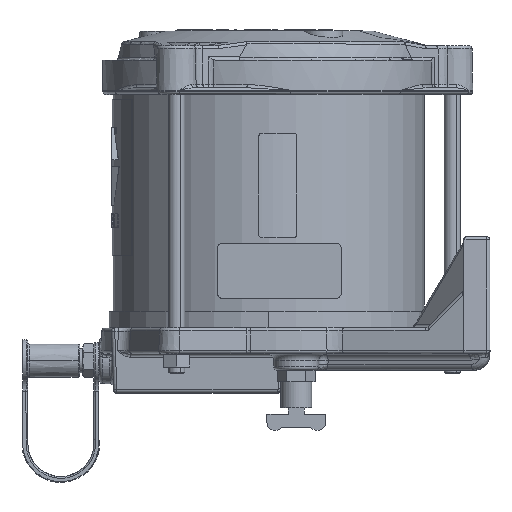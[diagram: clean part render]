
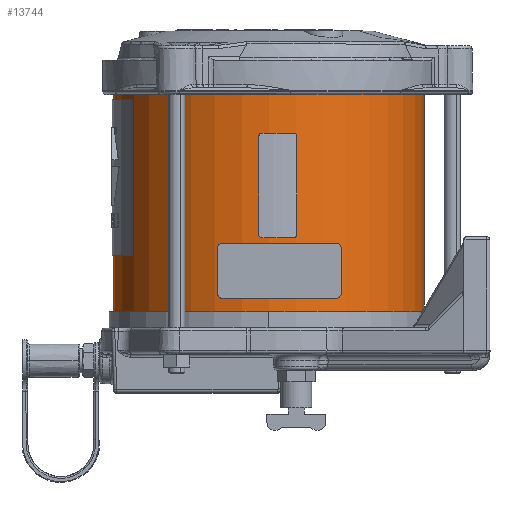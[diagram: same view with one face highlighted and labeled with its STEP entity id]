
A CAD part, top view. The second image highlights one B-rep face of the part: STEP entity #13744.
In plain terms, the highlighted cylindrical face has radius 75.819 mm (diameter 151.638 mm), a partial arc.
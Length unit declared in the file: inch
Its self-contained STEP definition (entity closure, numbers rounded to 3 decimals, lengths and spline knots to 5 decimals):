
#13693=CARTESIAN_POINT('',(-0.9535,1.575,-3.485));
#13694=DIRECTION('',(0.,-1.,0.));
#13695=DIRECTION('',(1.,0.,0.));
#13696=AXIS2_PLACEMENT_3D('',#13693,#13694,#13695);
#13698=DIRECTION('',(0.,1.,0.));
#13699=VECTOR('',#13698,4.89);
#13700=CARTESIAN_POINT('',(-3.9385,1.575,-3.485));
#13701=LINE('',#13700,#13699);
#13702=CARTESIAN_POINT('',(-0.9535,6.465,-3.485));
#13703=DIRECTION('',(0.,1.,0.));
#13704=DIRECTION('',(-1.,0.,0.));
#13705=AXIS2_PLACEMENT_3D('',#13702,#13703,#13704);
#13712=DIRECTION('',(0.,1.,0.));
#13713=VECTOR('',#13712,4.89);
#13714=CARTESIAN_POINT('',(2.0315,1.575,-3.485));
#13715=LINE('',#13714,#13713);
#13721=CARTESIAN_POINT('',(-3.9385,1.575,-3.485));
#13722=CARTESIAN_POINT('',(2.0315,1.575,-3.485));
#13723=VERTEX_POINT('',#13721);
#13724=VERTEX_POINT('',#13722);
#13725=CARTESIAN_POINT('',(-3.9385,6.465,-3.485));
#13726=CARTESIAN_POINT('',(2.0315,6.465,-3.485));
#13727=VERTEX_POINT('',#13725);
#13728=VERTEX_POINT('',#13726);
#13729=CARTESIAN_POINT('',(-0.9535,1.575,-3.485));
#13730=DIRECTION('',(0.,1.,0.));
#13731=DIRECTION('',(-1.,0.,0.));
#13732=AXIS2_PLACEMENT_3D('',#13729,#13730,#13731);
#13733=CYLINDRICAL_SURFACE('',#13732,2.985);
#13735=ORIENTED_EDGE('',*,*,#13734,.T.);
#13737=ORIENTED_EDGE('',*,*,#13736,.T.);
#13739=ORIENTED_EDGE('',*,*,#13738,.T.);
#13741=ORIENTED_EDGE('',*,*,#13740,.F.);
#13742=EDGE_LOOP('',(#13735,#13737,#13739,#13741));
#13743=FACE_OUTER_BOUND('',#13742,.F.);
#13744=ADVANCED_FACE('',(#13743),#13733,.T.);
#13697=CIRCLE('',#13696,2.985);
#13706=CIRCLE('',#13705,2.985);
#13734=EDGE_CURVE('',#13724,#13723,#13697,.T.);
#13736=EDGE_CURVE('',#13723,#13727,#13701,.T.);
#13738=EDGE_CURVE('',#13727,#13728,#13706,.T.);
#13740=EDGE_CURVE('',#13724,#13728,#13715,.T.);
